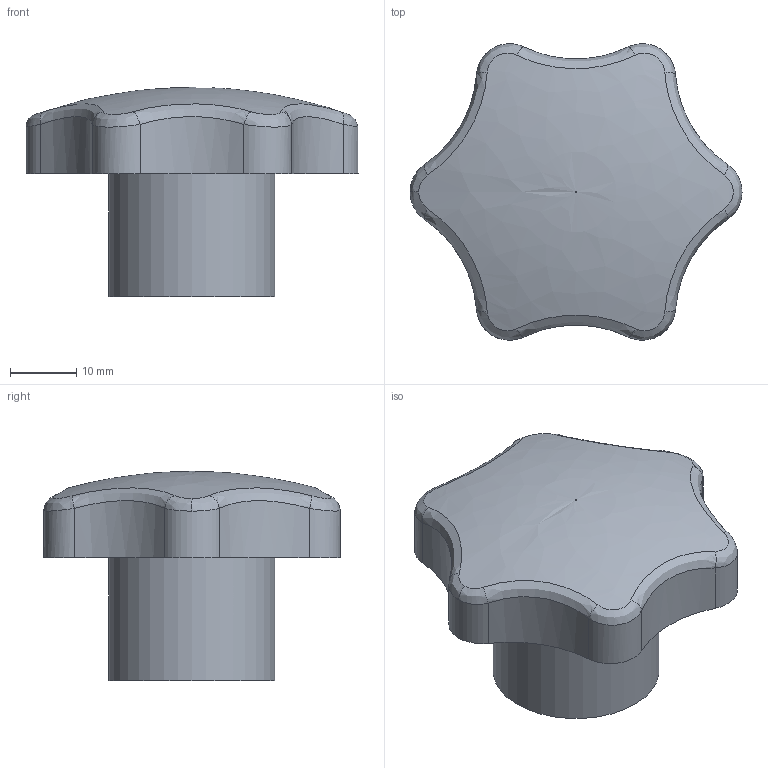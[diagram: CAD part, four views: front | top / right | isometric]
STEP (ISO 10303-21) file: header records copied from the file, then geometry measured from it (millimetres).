
FILE_DESCRIPTION( ('This file contains a STEP AP42 implementation' ,'as created by ZW3D STEP Interface translator.') ,'2;1' );
FILE_NAME( 'Rekojesc gwiazdowa z gwintem wewnetrznym 50.stp' ,'26 320. 72656', (''), ('ZWCAD Software Co.'), 'Version 1.0', 'ZW3D to STEP translator', '' );
FILE_SCHEMA(('AP242_MANAGED_MODEL_BASED_3D_ENGINEERING_MIM_LF { 1 0 10303 442 1 1 4 }'));
Length unit declared in the file: millimetre
Products named in the file (1): 0
Bounding box: 50 x 44.63 x 31.5 mm (x, y, z)
Volume: 26083.4 mm3; surface area: 7469.3 mm2
Topology: 2 solids, 2 shells, 39 faces, 88 edges, 53 vertices
Faces by surface type: cylinder 17, bspline 14, plane 4, cone 4
Full cylindrical faces by diameter (mm): 4.2 x2, 8 x2, 25 x1
Entity records: 2129 total; most frequent: CARTESIAN_POINT 1334, ORIENTED_EDGE 170, DIRECTION 123, EDGE_CURVE 85, VERTEX_POINT 53, AXIS2_PLACEMENT_3D 51, EDGE_LOOP 42, FACE_OUTER_BOUND 39
